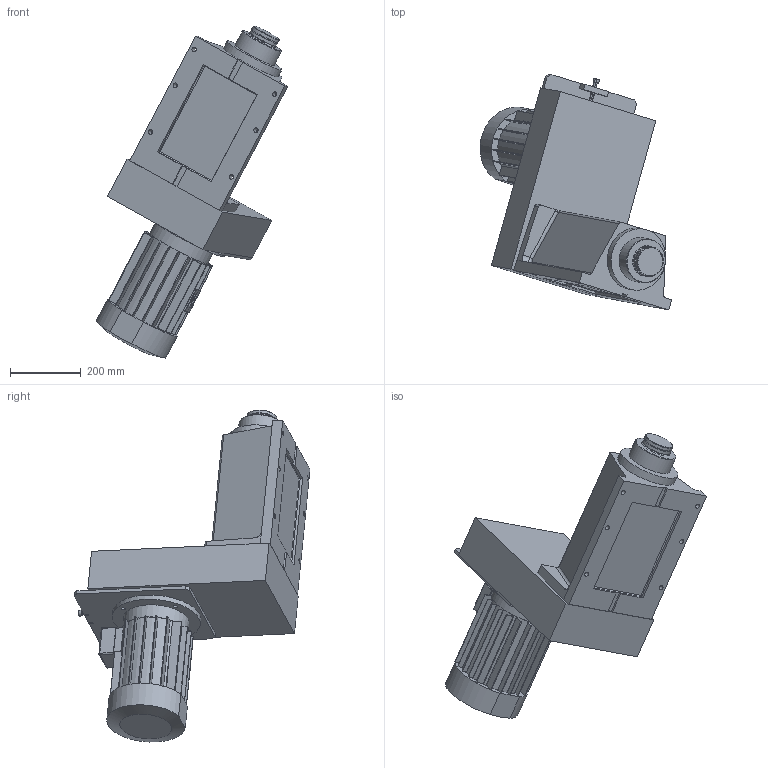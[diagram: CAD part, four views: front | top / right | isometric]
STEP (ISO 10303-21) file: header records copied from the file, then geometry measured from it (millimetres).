
FILE_DESCRIPTION((''),'2;1');
FILE_NAME('C:\VaultWork\Zeichnungen\Maßblätter\BF5\BF01372-1-0 Maßblatt Bohreinheit BF5 mit HSK-C Gr. 80 Z-Laterne.stp','2009-05-27T16:58:57',('Test'),(''),'Autodesk Inventor 2008','Autodesk Inventor 2008','');
FILE_SCHEMA(('AUTOMOTIVE_DESIGN { 1 0 10303 214 1 1 1 1 }'));
Length unit declared in the file: millimetre
Products named in the file (1): BF01372-1-0 Maßblatt Bohreinheit BF5 mit HSK-C Gr. 80 Z-Laterne
Bounding box: 542.18 x 667.74 x 939.49 mm (x, y, z)
Volume: 50489096.8 mm3; surface area: 1545607.5 mm2
Topology: 4 solids, 4 shells, 309 faces, 796 edges, 519 vertices
Faces by surface type: plane 201, cylinder 71, bspline 21, cone 11, sphere 4, torus 1
Full cylindrical faces by diameter (mm): 3.242 x1, 4 x1, 8 x1, 9 x2, 10 x2, 12 x4, 16 x1, 42 x1, 80 x2, 84 x2, 125 x1, 168 x1, 175 x1, 184 x1, 185 x1, 250 x1
Entity records: 10023 total; most frequent: CARTESIAN_POINT 2348, DIRECTION 1503, ORIENTED_EDGE 1438, EDGE_CURVE 719, AXIS2_PLACEMENT_3D 519, VERTEX_POINT 493, VECTOR 465, LINE 465
